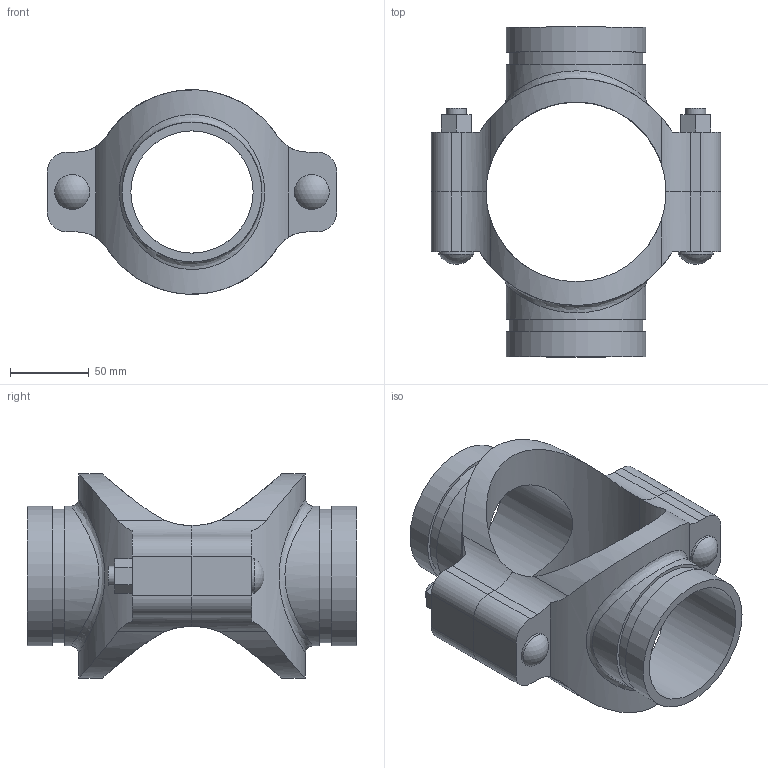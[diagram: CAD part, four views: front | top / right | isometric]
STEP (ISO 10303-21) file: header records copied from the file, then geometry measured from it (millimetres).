
FILE_DESCRIPTION(/* description */ ('VIC MECH-T BRANCH OUTLET CROSS STYLE 920N (GRVD)','CAx-IF Rec.Pracs.---Representation and Presentation of Product Manufacturing Information (PMI)---4.0---2014-10-13'),/* implementation_level */ '2;1');
FILE_NAME(/* name */ 'C:\Users\Vjadhav\AppData\Roaming\Autodesk\ApplicationPlugins\Back Up\Victaulic_IPS_Mechanical-Cross Outlet_Style 920N (OGS)\Victaulic_IPS_Mechanical-Cross Outlet_04.0x03.0x03.0 (100x80x80).stp',/* time_stamp */ '2020-08-06T19:44:04+05:00',/* author */ ('Vjadhav'),/* organization */ ('Victaulic'),/* preprocessor_version */ 'ST-DEVELOPER v17.2',/* originating_system */ 'Autodesk Inventor 2019',/* authorisation */ '');
FILE_SCHEMA (('AP242_MANAGED_MODEL_BASED_3D_ENGINEERING_MIM_LF { 1 0 10303 442 1 1 4 }'));
Length unit declared in the file: inch
Products named in the file (3): 920NG-04.0x03.0x03.0; 920G-04.0x03.0x03.0; 920G-04.0x03.0
Assembly tree (2 placements, depth 2):
  920NG-04.0x03.0x03.0
    920G-04.0x03.0x03.0
    920G-04.0x03.0
Bounding box: 184.15 x 209.8 x 129.93 mm (x, y, z)
Volume: 678739.3 mm3; surface area: 154481.7 mm2
Topology: 2 solids, 2 shells, 104 faces, 262 edges, 178 vertices
Faces by surface type: plane 54, cylinder 46, sphere 2, bspline 2
Full cylindrical faces by diameter (mm): 12.7 x4, 22.225 x2, 77.787 x2, 84.938 x2, 88.9 x4
Entity records: 4190 total; most frequent: CARTESIAN_POINT 1417, DIRECTION 532, ORIENTED_EDGE 524, EDGE_CURVE 262, AXIS2_PLACEMENT_3D 193, VERTEX_POINT 178, LINE 146, VECTOR 146
